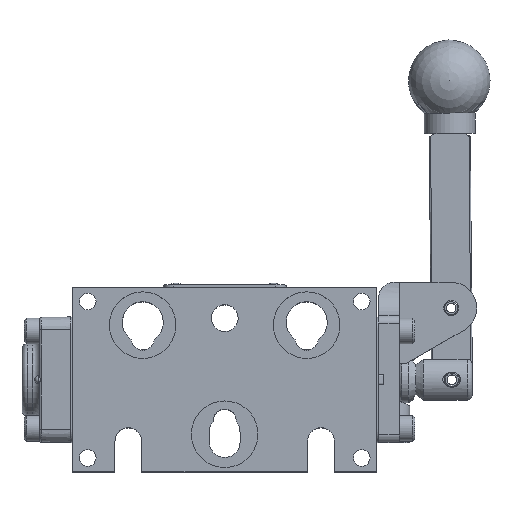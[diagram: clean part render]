
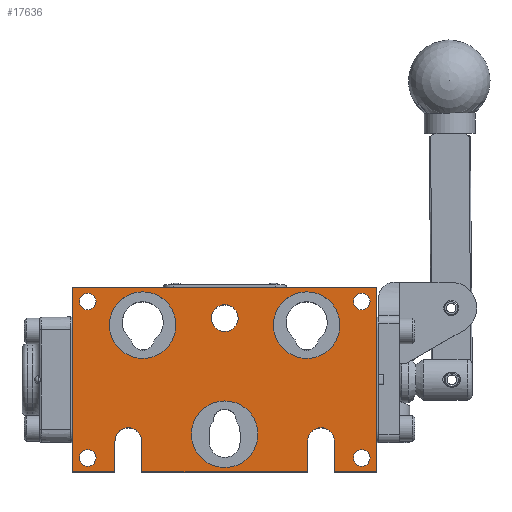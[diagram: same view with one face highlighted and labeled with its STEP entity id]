
A CAD part, top view. The second image highlights one B-rep face of the part: STEP entity #17636.
In plain terms, the highlighted planar face has unit normal (0, 0, 1).
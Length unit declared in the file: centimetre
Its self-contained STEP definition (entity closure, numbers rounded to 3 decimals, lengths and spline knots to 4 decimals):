
#514=FACE_BOUND('',#2876,.T.);
#515=FACE_BOUND('',#2877,.T.);
#516=FACE_BOUND('',#2878,.T.);
#517=FACE_BOUND('',#2879,.T.);
#518=FACE_BOUND('',#2880,.T.);
#519=FACE_BOUND('',#2881,.T.);
#520=FACE_BOUND('',#2882,.T.);
#521=FACE_BOUND('',#2883,.T.);
#938=PLANE('',#19341);
#1763=FACE_OUTER_BOUND('',#2875,.T.);
#2875=EDGE_LOOP('',(#14433,#14434,#14435,#14436,#14437,#14438,#14439,#14440,
#14441,#14442,#14443,#14444));
#2876=EDGE_LOOP('',(#14445));
#2877=EDGE_LOOP('',(#14446));
#2878=EDGE_LOOP('',(#14447));
#2879=EDGE_LOOP('',(#14448));
#2880=EDGE_LOOP('',(#14449));
#2881=EDGE_LOOP('',(#14450));
#2882=EDGE_LOOP('',(#14451));
#2883=EDGE_LOOP('',(#14452));
#4512=LINE('',#32312,#5643);
#4513=LINE('',#32314,#5644);
#4514=LINE('',#32316,#5645);
#4515=LINE('',#32318,#5646);
#4516=LINE('',#32322,#5647);
#4517=LINE('',#32324,#5648);
#4518=LINE('',#32326,#5649);
#4519=LINE('',#32330,#5650);
#4520=LINE('',#32332,#5651);
#4521=LINE('',#32333,#5652);
#5643=VECTOR('',#23518,1.);
#5644=VECTOR('',#23519,1.);
#5645=VECTOR('',#23520,1.);
#5646=VECTOR('',#23521,1.);
#5647=VECTOR('',#23524,1.);
#5648=VECTOR('',#23525,1.);
#5649=VECTOR('',#23526,1.);
#5650=VECTOR('',#23529,1.);
#5651=VECTOR('',#23530,1.);
#5652=VECTOR('',#23531,1.);
#6523=CIRCLE('',#19342,0.4166);
#6524=CIRCLE('',#19343,0.4166);
#6525=CIRCLE('',#19344,0.4167);
#6526=CIRCLE('',#19345,1.0312);
#6527=CIRCLE('',#19346,1.0312);
#6528=CIRCLE('',#19347,1.0312);
#6529=CIRCLE('',#19348,0.2578);
#6530=CIRCLE('',#19349,0.2578);
#6531=CIRCLE('',#19350,0.2578);
#6532=CIRCLE('',#19351,0.2578);
#7959=VERTEX_POINT('',#32310);
#7960=VERTEX_POINT('',#32311);
#7961=VERTEX_POINT('',#32313);
#7962=VERTEX_POINT('',#32315);
#7963=VERTEX_POINT('',#32317);
#7964=VERTEX_POINT('',#32319);
#7965=VERTEX_POINT('',#32321);
#7966=VERTEX_POINT('',#32323);
#7967=VERTEX_POINT('',#32325);
#7968=VERTEX_POINT('',#32327);
#7969=VERTEX_POINT('',#32329);
#7970=VERTEX_POINT('',#32331);
#7971=VERTEX_POINT('',#32334);
#7972=VERTEX_POINT('',#32336);
#7973=VERTEX_POINT('',#32338);
#7974=VERTEX_POINT('',#32340);
#7975=VERTEX_POINT('',#32342);
#7976=VERTEX_POINT('',#32344);
#7977=VERTEX_POINT('',#32346);
#7978=VERTEX_POINT('',#32348);
#10195=EDGE_CURVE('',#7959,#7960,#4512,.T.);
#10196=EDGE_CURVE('',#7961,#7959,#4513,.T.);
#10197=EDGE_CURVE('',#7962,#7961,#4514,.T.);
#10198=EDGE_CURVE('',#7963,#7962,#4515,.T.);
#10199=EDGE_CURVE('',#7964,#7963,#6523,.T.);
#10200=EDGE_CURVE('',#7965,#7964,#4516,.T.);
#10201=EDGE_CURVE('',#7966,#7965,#4517,.T.);
#10202=EDGE_CURVE('',#7967,#7966,#4518,.T.);
#10203=EDGE_CURVE('',#7968,#7967,#6524,.T.);
#10204=EDGE_CURVE('',#7969,#7968,#4519,.T.);
#10205=EDGE_CURVE('',#7970,#7969,#4520,.T.);
#10206=EDGE_CURVE('',#7960,#7970,#4521,.T.);
#10207=EDGE_CURVE('',#7971,#7971,#6525,.T.);
#10208=EDGE_CURVE('',#7972,#7972,#6526,.T.);
#10209=EDGE_CURVE('',#7973,#7973,#6527,.T.);
#10210=EDGE_CURVE('',#7974,#7974,#6528,.T.);
#10211=EDGE_CURVE('',#7975,#7975,#6529,.T.);
#10212=EDGE_CURVE('',#7976,#7976,#6530,.T.);
#10213=EDGE_CURVE('',#7977,#7977,#6531,.T.);
#10214=EDGE_CURVE('',#7978,#7978,#6532,.T.);
#14433=ORIENTED_EDGE('',*,*,#10195,.F.);
#14434=ORIENTED_EDGE('',*,*,#10196,.F.);
#14435=ORIENTED_EDGE('',*,*,#10197,.F.);
#14436=ORIENTED_EDGE('',*,*,#10198,.F.);
#14437=ORIENTED_EDGE('',*,*,#10199,.F.);
#14438=ORIENTED_EDGE('',*,*,#10200,.F.);
#14439=ORIENTED_EDGE('',*,*,#10201,.F.);
#14440=ORIENTED_EDGE('',*,*,#10202,.F.);
#14441=ORIENTED_EDGE('',*,*,#10203,.F.);
#14442=ORIENTED_EDGE('',*,*,#10204,.F.);
#14443=ORIENTED_EDGE('',*,*,#10205,.F.);
#14444=ORIENTED_EDGE('',*,*,#10206,.F.);
#14445=ORIENTED_EDGE('',*,*,#10207,.T.);
#14446=ORIENTED_EDGE('',*,*,#10208,.T.);
#14447=ORIENTED_EDGE('',*,*,#10209,.T.);
#14448=ORIENTED_EDGE('',*,*,#10210,.T.);
#14449=ORIENTED_EDGE('',*,*,#10211,.T.);
#14450=ORIENTED_EDGE('',*,*,#10212,.T.);
#14451=ORIENTED_EDGE('',*,*,#10213,.T.);
#14452=ORIENTED_EDGE('',*,*,#10214,.T.);
#17636=ADVANCED_FACE('',(#1763,#514,#515,#516,#517,#518,#519,#520,#521),
#938,.T.);
#19341=AXIS2_PLACEMENT_3D('',#32309,#23516,#23517);
#19342=AXIS2_PLACEMENT_3D('',#32320,#23522,#23523);
#19343=AXIS2_PLACEMENT_3D('',#32328,#23527,#23528);
#19344=AXIS2_PLACEMENT_3D('',#32335,#23532,#23533);
#19345=AXIS2_PLACEMENT_3D('',#32337,#23534,#23535);
#19346=AXIS2_PLACEMENT_3D('',#32339,#23536,#23537);
#19347=AXIS2_PLACEMENT_3D('',#32341,#23538,#23539);
#19348=AXIS2_PLACEMENT_3D('',#32343,#23540,#23541);
#19349=AXIS2_PLACEMENT_3D('',#32345,#23542,#23543);
#19350=AXIS2_PLACEMENT_3D('',#32347,#23544,#23545);
#19351=AXIS2_PLACEMENT_3D('',#32349,#23546,#23547);
#23516=DIRECTION('center_axis',(0.,0.,1.));
#23517=DIRECTION('ref_axis',(1.,0.,0.));
#23518=DIRECTION('',(1.,0.,0.));
#23519=DIRECTION('',(0.,1.,0.));
#23520=DIRECTION('',(-1.,0.,0.));
#23521=DIRECTION('',(0.,-1.,0.));
#23522=DIRECTION('center_axis',(0.,0.,1.));
#23523=DIRECTION('ref_axis',(1.,0.,0.));
#23524=DIRECTION('',(0.,1.,0.));
#23525=DIRECTION('',(-1.,0.,0.));
#23526=DIRECTION('',(0.,-1.,0.));
#23527=DIRECTION('center_axis',(0.,0.,1.));
#23528=DIRECTION('ref_axis',(1.,0.,0.));
#23529=DIRECTION('',(0.,1.,0.));
#23530=DIRECTION('',(-1.,0.,0.));
#23531=DIRECTION('',(0.,-1.,0.));
#23532=DIRECTION('center_axis',(0.,0.,-1.));
#23533=DIRECTION('ref_axis',(1.,0.,0.));
#23534=DIRECTION('center_axis',(0.,0.,-1.));
#23535=DIRECTION('ref_axis',(-1.,0.,0.));
#23536=DIRECTION('center_axis',(0.,0.,-1.));
#23537=DIRECTION('ref_axis',(-1.,0.,0.));
#23538=DIRECTION('center_axis',(0.,0.,-1.));
#23539=DIRECTION('ref_axis',(-1.,0.,0.));
#23540=DIRECTION('center_axis',(0.,0.,-1.));
#23541=DIRECTION('ref_axis',(1.,0.,0.));
#23542=DIRECTION('center_axis',(0.,0.,-1.));
#23543=DIRECTION('ref_axis',(1.,0.,0.));
#23544=DIRECTION('center_axis',(0.,0.,-1.));
#23545=DIRECTION('ref_axis',(1.,0.,0.));
#23546=DIRECTION('center_axis',(0.,0.,-1.));
#23547=DIRECTION('ref_axis',(1.,0.,0.));
#32309=CARTESIAN_POINT('Origin',(0.,-0.2475,
1.6662));
#32310=CARTESIAN_POINT('',(-4.7117,2.8575,1.6662));
#32311=CARTESIAN_POINT('',(4.7117,2.8575,1.6662));
#32312=CARTESIAN_POINT('',(-4.7117,2.8575,1.6662));
#32313=CARTESIAN_POINT('',(-4.7117,-2.8575,1.6662));
#32314=CARTESIAN_POINT('',(-4.7117,-2.8575,1.6662));
#32315=CARTESIAN_POINT('',(-3.4011,-2.8575,1.6662));
#32316=CARTESIAN_POINT('',(-3.4011,-2.8575,1.6662));
#32317=CARTESIAN_POINT('',(-3.4011,-1.905,1.6662));
#32318=CARTESIAN_POINT('',(-3.4011,-1.905,1.6662));
#32319=CARTESIAN_POINT('',(-2.5679,-1.905,1.6662));
#32320=CARTESIAN_POINT('Origin',(-2.9845,-1.905,1.6662));
#32321=CARTESIAN_POINT('',(-2.5679,-2.8575,1.6662));
#32322=CARTESIAN_POINT('',(-2.5679,-2.8575,1.6662));
#32323=CARTESIAN_POINT('',(2.5679,-2.8575,1.6662));
#32324=CARTESIAN_POINT('',(2.5679,-2.8575,1.6662));
#32325=CARTESIAN_POINT('',(2.5679,-1.905,1.6662));
#32326=CARTESIAN_POINT('',(2.5679,-1.905,1.6662));
#32327=CARTESIAN_POINT('',(3.4011,-1.905,1.6662));
#32328=CARTESIAN_POINT('Origin',(2.9845,-1.905,1.6662));
#32329=CARTESIAN_POINT('',(3.4011,-2.8575,1.6662));
#32330=CARTESIAN_POINT('',(3.4011,-2.8575,1.6662));
#32331=CARTESIAN_POINT('',(4.7117,-2.8575,1.6662));
#32332=CARTESIAN_POINT('',(4.7117,-2.8575,1.6662));
#32333=CARTESIAN_POINT('',(4.7117,2.8575,1.6662));
#32334=CARTESIAN_POINT('',(-0.4167,1.905,1.6662));
#32335=CARTESIAN_POINT('Origin',(0.,1.905,1.6662));
#32336=CARTESIAN_POINT('',(3.5712,1.6891,1.6662));
#32337=CARTESIAN_POINT('Origin',(2.54,1.6891,1.6662));
#32338=CARTESIAN_POINT('',(1.0312,-1.6891,1.6662));
#32339=CARTESIAN_POINT('Origin',(0.,-1.6891,1.6662));
#32340=CARTESIAN_POINT('',(-1.5088,1.6891,1.6662));
#32341=CARTESIAN_POINT('Origin',(-2.54,1.6891,1.6662));
#32342=CARTESIAN_POINT('',(3.9891,-2.4206,1.6662));
#32343=CARTESIAN_POINT('Origin',(4.2469,-2.4206,1.6662));
#32344=CARTESIAN_POINT('',(-4.5022,-2.4206,1.6662));
#32345=CARTESIAN_POINT('Origin',(-4.2443,-2.4206,1.6662));
#32346=CARTESIAN_POINT('',(3.9891,2.4206,1.6662));
#32347=CARTESIAN_POINT('Origin',(4.2469,2.4206,1.6662));
#32348=CARTESIAN_POINT('',(-4.5022,2.4206,1.6662));
#32349=CARTESIAN_POINT('Origin',(-4.2443,2.4206,1.6662));
